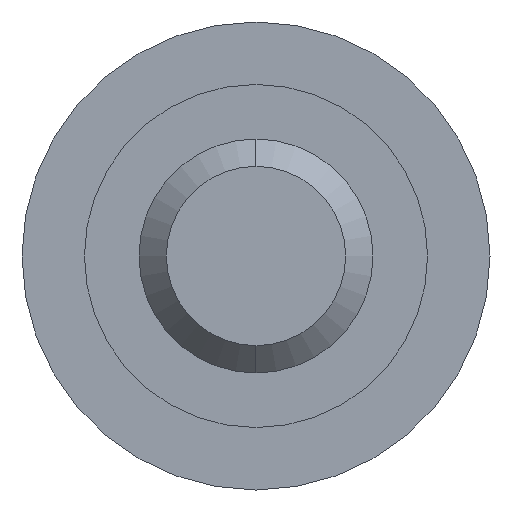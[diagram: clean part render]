
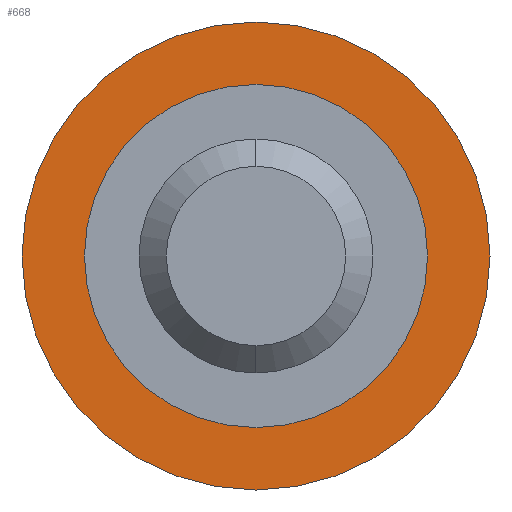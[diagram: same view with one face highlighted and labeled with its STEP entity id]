
A CAD part, left-side view. The second image highlights one B-rep face of the part: STEP entity #668.
In plain terms, the highlighted planar face has unit normal (-1, 0, 0).
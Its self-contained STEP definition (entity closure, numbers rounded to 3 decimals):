
#5 = VERTEX_POINT ( 'NONE', #250 ) ;
#10 = PLANE ( 'NONE',  #197 ) ;
#15 = AXIS2_PLACEMENT_3D ( 'NONE', #260, #410, #367 ) ;
#33 = CARTESIAN_POINT ( 'NONE',  ( -3.5, 0., 3. ) ) ;
#46 = DIRECTION ( 'NONE',  ( -1., 0., 0. ) ) ;
#57 = ORIENTED_EDGE ( 'NONE', *, *, #553, .F. ) ;
#86 = ORIENTED_EDGE ( 'NONE', *, *, #424, .T. ) ;
#96 = CARTESIAN_POINT ( 'NONE',  ( -3.5, 0., -3. ) ) ;
#105 = FACE_BOUND ( 'NONE', #313, .T. ) ;
#130 = VERTEX_POINT ( 'NONE', #33 ) ;
#146 = VERTEX_POINT ( 'NONE', #622 ) ;
#153 = DIRECTION ( 'NONE',  ( 0., 0., 1. ) ) ;
#197 = AXIS2_PLACEMENT_3D ( 'NONE', #277, #537, #380 ) ;
#198 = CARTESIAN_POINT ( 'NONE',  ( -3.5, 0., 0. ) ) ;
#248 = AXIS2_PLACEMENT_3D ( 'NONE', #576, #46, #153 ) ;
#250 = CARTESIAN_POINT ( 'NONE',  ( -3.5, 0., 2.2 ) ) ;
#260 = CARTESIAN_POINT ( 'NONE',  ( -3.5, 0., 0. ) ) ;
#277 = CARTESIAN_POINT ( 'NONE',  ( -3.5, 2.2, 0. ) ) ;
#313 = EDGE_LOOP ( 'NONE', ( #57, #586 ) ) ;
#319 = EDGE_LOOP ( 'NONE', ( #562, #86 ) ) ;
#367 = DIRECTION ( 'NONE',  ( 0., 0., 1. ) ) ;
#370 = DIRECTION ( 'NONE',  ( -1., 0., 0. ) ) ;
#380 = DIRECTION ( 'NONE',  ( 0., 0., -1. ) ) ;
#410 = DIRECTION ( 'NONE',  ( -1., 0., 0. ) ) ;
#424 = EDGE_CURVE ( 'NONE', #509, #130, #547, .T. ) ;
#431 = CIRCLE ( 'NONE', #15, 2.2 ) ;
#442 = FACE_OUTER_BOUND ( 'NONE', #319, .T. ) ;
#451 = CIRCLE ( 'NONE', #613, 2.2 ) ;
#452 = AXIS2_PLACEMENT_3D ( 'NONE', #198, #673, #467 ) ;
#467 = DIRECTION ( 'NONE',  ( 0., 0., 1. ) ) ;
#474 = EDGE_CURVE ( 'NONE', #146, #5, #451, .T. ) ;
#502 = EDGE_CURVE ( 'NONE', #130, #509, #590, .T. ) ;
#509 = VERTEX_POINT ( 'NONE', #96 ) ;
#528 = DIRECTION ( 'NONE',  ( 0., 0., 1. ) ) ;
#537 = DIRECTION ( 'NONE',  ( 1., 0., 0. ) ) ;
#547 = CIRCLE ( 'NONE', #248, 3. ) ;
#553 = EDGE_CURVE ( 'NONE', #5, #146, #431, .T. ) ;
#562 = ORIENTED_EDGE ( 'NONE', *, *, #502, .T. ) ;
#576 = CARTESIAN_POINT ( 'NONE',  ( -3.5, 0., 0. ) ) ;
#586 = ORIENTED_EDGE ( 'NONE', *, *, #474, .F. ) ;
#590 = CIRCLE ( 'NONE', #452, 3. ) ;
#613 = AXIS2_PLACEMENT_3D ( 'NONE', #626, #370, #528 ) ;
#622 = CARTESIAN_POINT ( 'NONE',  ( -3.5, 0., -2.2 ) ) ;
#626 = CARTESIAN_POINT ( 'NONE',  ( -3.5, 0., 0. ) ) ;
#668 = ADVANCED_FACE ( 'NONE', ( #105, #442 ), #10, .F. ) ;
#673 = DIRECTION ( 'NONE',  ( -1., 0., 0. ) ) ;
